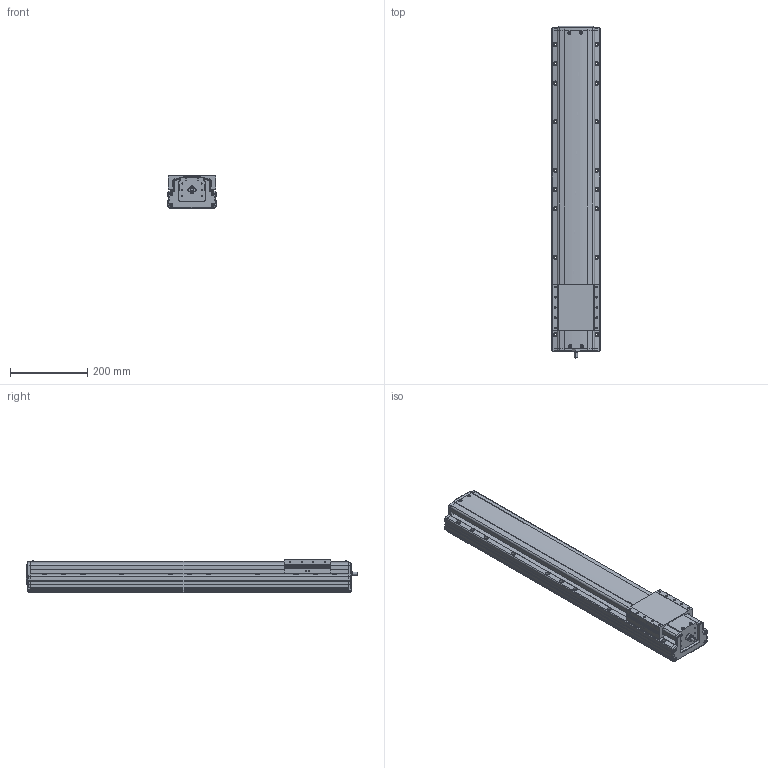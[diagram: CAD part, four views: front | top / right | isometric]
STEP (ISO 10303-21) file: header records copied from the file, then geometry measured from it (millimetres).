
FILE_DESCRIPTION(('STEP AP214'),'1');
FILE_NAME('Z:/Web/3D/PSA125/STP/PSA125-600 (3D)/PSA125ㅁㅁ-600.stp','2014-06-23T00:25:37',(' '),(' '),'Spatial InterOp 3D',' ',' ');
FILE_SCHEMA(('automotive_design'));
Length unit declared in the file: millimetre
Products named in the file (18): 스크루 : Round - M4.0 x 10.0; RRCV-PA120; SLIDE; BASE; FRCV-PA120-1(기준 뿔 제거); RR1500; 스크루 : Round - M4.0 x 6.0; 너트 : Square - M10.0 x 220.7419
Bounding box: 125 x 858.1 x 86 mm (x, y, z)
Volume: 7019893.8 mm3; surface area: 572192 mm2
Topology: 18 solids, 18 shells, 1882 faces, 5081 edges, 3234 vertices
Faces by surface type: plane 1014, cylinder 576, cone 204, sphere 32, bspline 31, torus 25
Entity records: 75791 total; most frequent: CARTESIAN_POINT 12907, DIRECTION 9959, ORIENTED_EDGE 9910, EDGE_CURVE 4955, LINE 3345, VECTOR 3345, AXIS2_PLACEMENT_3D 3307, VERTEX_POINT 3234
